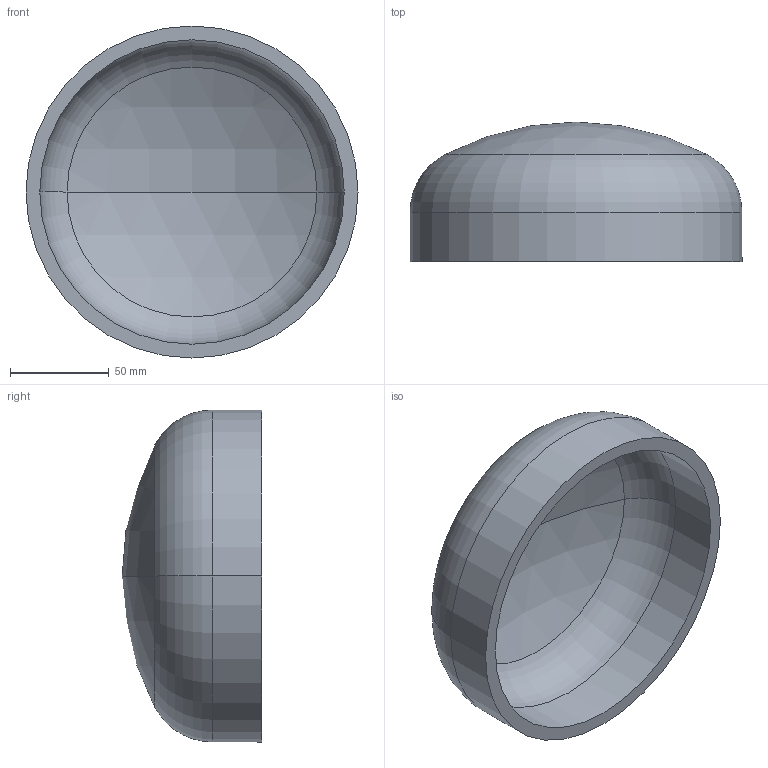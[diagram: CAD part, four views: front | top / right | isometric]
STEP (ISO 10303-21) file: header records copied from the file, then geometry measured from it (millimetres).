
FILE_DESCRIPTION (( 'STEP AP203' ), '1' );
FILE_NAME ('DIN 28013 Korbbogenform_-_Boden DIN 28013 - 168,3 x 25 - I - s=7.step', '2016-07-01T07:41:27', ( '' ), ( '' ), 'SwSTEP 2.0', 'SolidWorks 2013', '' );
FILE_SCHEMA (( 'CONFIG_CONTROL_DESIGN' ));
Length unit declared in the file: millimetre
Products named in the file (1): DIN 28013 Korbbogenform_-_Boden DIN 28013 - 168,3 x 25 - I - s=7
Bounding box: 168.3 x 70.75 x 168.3 mm (x, y, z)
Volume: 293151.2 mm3; surface area: 87407.3 mm2
Topology: 1 solids, 1 shells, 13 faces, 24 edges, 14 vertices
Faces by surface type: torus 4, cylinder 4, sphere 4, plane 1
Entity records: 407 total; most frequent: DIRECTION 72, CARTESIAN_POINT 52, ORIENTED_EDGE 48, AXIS2_PLACEMENT_3D 34, EDGE_CURVE 24, CIRCLE 20, EDGE_LOOP 14, VERTEX_POINT 14
